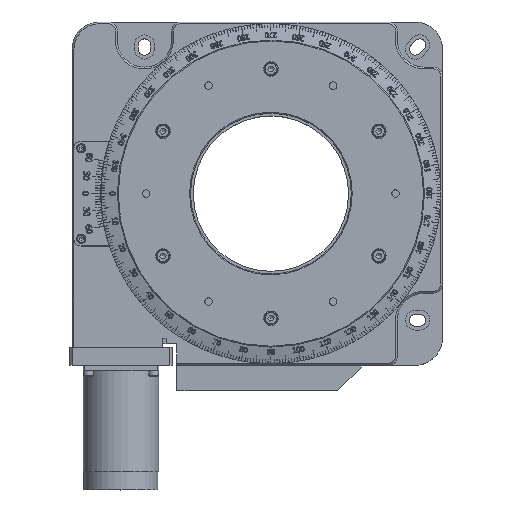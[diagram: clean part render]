
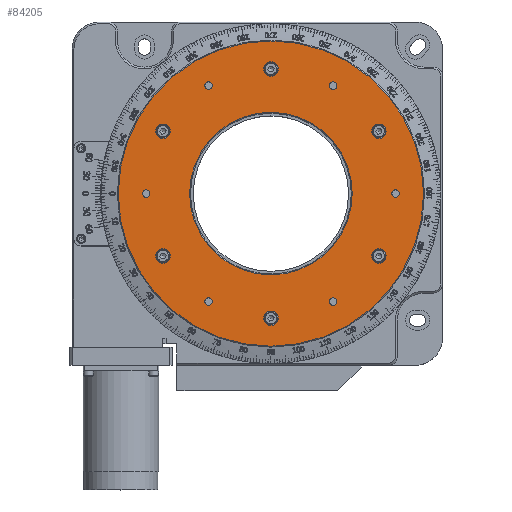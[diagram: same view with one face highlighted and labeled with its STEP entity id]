
A CAD part, top view. The second image highlights one B-rep face of the part: STEP entity #84205.
In plain terms, the highlighted planar face has unit normal (0, 0, 1).
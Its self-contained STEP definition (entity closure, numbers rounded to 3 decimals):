
#18982=FACE_BOUND($,#33728,.T.);
#18983=FACE_BOUND($,#33729,.T.);
#18984=FACE_BOUND($,#33730,.T.);
#18985=FACE_BOUND($,#33731,.T.);
#18986=FACE_BOUND($,#33732,.T.);
#18987=FACE_BOUND($,#33733,.T.);
#18988=FACE_BOUND($,#33734,.T.);
#18989=FACE_BOUND($,#33735,.T.);
#18990=FACE_BOUND($,#33736,.T.);
#18991=FACE_BOUND($,#33737,.T.);
#18992=FACE_BOUND($,#33738,.T.);
#18993=FACE_BOUND($,#33739,.T.);
#18994=FACE_BOUND($,#33740,.T.);
#18995=FACE_BOUND($,#33741,.T.);
#33728=EDGE_LOOP($,(#76620));
#33729=EDGE_LOOP($,(#76621));
#33730=EDGE_LOOP($,(#76622));
#33731=EDGE_LOOP($,(#76623));
#33732=EDGE_LOOP($,(#76624));
#33733=EDGE_LOOP($,(#76625));
#33734=EDGE_LOOP($,(#76626));
#33735=EDGE_LOOP($,(#76627));
#33736=EDGE_LOOP($,(#76628));
#33737=EDGE_LOOP($,(#76629));
#33738=EDGE_LOOP($,(#76630));
#33739=EDGE_LOOP($,(#76631));
#33740=EDGE_LOOP($,(#76632));
#33741=EDGE_LOOP($,(#76633));
#34741=CIRCLE($,#88548,2.067);
#34744=CIRCLE($,#88553,4.);
#34745=CIRCLE($,#88555,2.067);
#34747=CIRCLE($,#88559,4.);
#34748=CIRCLE($,#88561,2.067);
#34751=CIRCLE($,#88566,4.);
#34752=CIRCLE($,#88568,2.067);
#34754=CIRCLE($,#88572,4.);
#34755=CIRCLE($,#88574,2.067);
#34757=CIRCLE($,#88578,4.);
#34760=CIRCLE($,#88583,4.);
#34761=CIRCLE($,#88585,2.067);
#34762=CIRCLE($,#88587,45.);
#34764=CIRCLE($,#88590,84.5);
#42438=VERTEX_POINT($,#466618);
#42441=VERTEX_POINT($,#466626);
#42442=VERTEX_POINT($,#466629);
#42444=VERTEX_POINT($,#466635);
#42445=VERTEX_POINT($,#466638);
#42448=VERTEX_POINT($,#466646);
#42449=VERTEX_POINT($,#466649);
#42451=VERTEX_POINT($,#466655);
#42452=VERTEX_POINT($,#466658);
#42454=VERTEX_POINT($,#466664);
#42457=VERTEX_POINT($,#466672);
#42458=VERTEX_POINT($,#466675);
#42459=VERTEX_POINT($,#466678);
#42461=VERTEX_POINT($,#466683);
#53944=EDGE_CURVE($,#42438,#42438,#34741,.T.);
#53947=EDGE_CURVE($,#42441,#42441,#34744,.T.);
#53948=EDGE_CURVE($,#42442,#42442,#34745,.T.);
#53950=EDGE_CURVE($,#42444,#42444,#34747,.T.);
#53951=EDGE_CURVE($,#42445,#42445,#34748,.T.);
#53954=EDGE_CURVE($,#42448,#42448,#34751,.T.);
#53955=EDGE_CURVE($,#42449,#42449,#34752,.T.);
#53957=EDGE_CURVE($,#42451,#42451,#34754,.T.);
#53958=EDGE_CURVE($,#42452,#42452,#34755,.T.);
#53960=EDGE_CURVE($,#42454,#42454,#34757,.T.);
#53963=EDGE_CURVE($,#42457,#42457,#34760,.T.);
#53964=EDGE_CURVE($,#42458,#42458,#34761,.T.);
#53965=EDGE_CURVE($,#42459,#42459,#34762,.T.);
#53967=EDGE_CURVE($,#42461,#42461,#34764,.T.);
#76620=ORIENTED_EDGE($,*,*,#53944,.T.);
#76621=ORIENTED_EDGE($,*,*,#53947,.T.);
#76622=ORIENTED_EDGE($,*,*,#53948,.T.);
#76623=ORIENTED_EDGE($,*,*,#53950,.T.);
#76624=ORIENTED_EDGE($,*,*,#53951,.T.);
#76625=ORIENTED_EDGE($,*,*,#53954,.T.);
#76626=ORIENTED_EDGE($,*,*,#53955,.T.);
#76627=ORIENTED_EDGE($,*,*,#53957,.T.);
#76628=ORIENTED_EDGE($,*,*,#53958,.T.);
#76629=ORIENTED_EDGE($,*,*,#53960,.T.);
#76630=ORIENTED_EDGE($,*,*,#53963,.T.);
#76631=ORIENTED_EDGE($,*,*,#53964,.T.);
#76632=ORIENTED_EDGE($,*,*,#53967,.F.);
#76633=ORIENTED_EDGE($,*,*,#53965,.T.);
#79526=PLANE($,#88589);
#84205=ADVANCED_FACE($,(#18982,#18983,#18984,#18985,#18986,#18987,#18988,
#18989,#18990,#18991,#18992,#18993,#18994,#18995),#79526,.T.);
#88548=AXIS2_PLACEMENT_3D($,#466619,#102417,#102418);
#88553=AXIS2_PLACEMENT_3D($,#466627,#102427,#102428);
#88555=AXIS2_PLACEMENT_3D($,#466630,#102431,#102432);
#88559=AXIS2_PLACEMENT_3D($,#466636,#102439,#102440);
#88561=AXIS2_PLACEMENT_3D($,#466639,#102443,#102444);
#88566=AXIS2_PLACEMENT_3D($,#466647,#102453,#102454);
#88568=AXIS2_PLACEMENT_3D($,#466650,#102457,#102458);
#88572=AXIS2_PLACEMENT_3D($,#466656,#102465,#102466);
#88574=AXIS2_PLACEMENT_3D($,#466659,#102469,#102470);
#88578=AXIS2_PLACEMENT_3D($,#466665,#102477,#102478);
#88583=AXIS2_PLACEMENT_3D($,#466673,#102487,#102488);
#88585=AXIS2_PLACEMENT_3D($,#466676,#102491,#102492);
#88587=AXIS2_PLACEMENT_3D($,#466679,#102495,#102496);
#88589=AXIS2_PLACEMENT_3D($,#466682,#102499,#102500);
#88590=AXIS2_PLACEMENT_3D($,#466684,#102501,#102502);
#102417=DIRECTION('center_axis',(0.,0.,
-1.));
#102418=DIRECTION('ref_axis',(0.866,-0.5,0.));
#102427=DIRECTION('center_axis',(0.,0.,
-1.));
#102428=DIRECTION('ref_axis',(0.866,-0.5,0.));
#102431=DIRECTION('center_axis',(0.,0.,
-1.));
#102432=DIRECTION('ref_axis',(0.866,0.5,0.));
#102439=DIRECTION('center_axis',(0.,0.,
-1.));
#102440=DIRECTION('ref_axis',(0.866,0.5,0.));
#102443=DIRECTION('center_axis',(0.,0.,
-1.));
#102444=DIRECTION('ref_axis',(0.,1.,0.));
#102453=DIRECTION('center_axis',(0.,0.,
-1.));
#102454=DIRECTION('ref_axis',(0.,1.,0.));
#102457=DIRECTION('center_axis',(0.,0.,
-1.));
#102458=DIRECTION('ref_axis',(-0.866,0.5,0.));
#102465=DIRECTION('center_axis',(0.,0.,
-1.));
#102466=DIRECTION('ref_axis',(-0.866,0.5,0.));
#102469=DIRECTION('center_axis',(0.,0.,
-1.));
#102470=DIRECTION('ref_axis',(-0.866,-0.5,0.));
#102477=DIRECTION('center_axis',(0.,0.,
-1.));
#102478=DIRECTION('ref_axis',(-0.866,-0.5,0.));
#102487=DIRECTION('center_axis',(0.,0.,
-1.));
#102488=DIRECTION('ref_axis',(0.,-1.,0.));
#102491=DIRECTION('center_axis',(0.,0.,
-1.));
#102492=DIRECTION('ref_axis',(0.,-1.,0.));
#102495=DIRECTION('center_axis',(0.,0.,
-1.));
#102496=DIRECTION('ref_axis',(0.,-1.,0.));
#102499=DIRECTION('center_axis',(0.,0.,
1.));
#102500=DIRECTION('ref_axis',(-1.,0.,0.));
#102501=DIRECTION('center_axis',(0.,0.,
-1.));
#102502=DIRECTION('ref_axis',(0.,-1.,0.));
#466618=CARTESIAN_POINT('',(25.208,76.57,26.5));
#466619=CARTESIAN_POINT('Origin',(23.418,77.604,26.5));
#466626=CARTESIAN_POINT('',(-7.618,84.848,26.5));
#466627=CARTESIAN_POINT('Origin',(-11.082,86.848,26.5));
#466629=CARTESIAN_POINT('',(-43.792,78.637,26.5));
#466630=CARTESIAN_POINT('Origin',(-45.582,77.604,26.5));
#466635=CARTESIAN_POINT('',(-67.374,54.348,26.5));
#466636=CARTESIAN_POINT('Origin',(-70.838,52.348,26.5));
#466638=CARTESIAN_POINT('',(-80.082,19.915,26.5));
#466639=CARTESIAN_POINT('Origin',(-80.082,17.848,26.5));
#466646=CARTESIAN_POINT('',(-70.838,-12.652,26.5));
#466647=CARTESIAN_POINT('Origin',(-70.838,-16.652,26.5));
#466649=CARTESIAN_POINT('',(-47.372,-40.874,26.5));
#466650=CARTESIAN_POINT('Origin',(-45.582,-41.908,26.5));
#466655=CARTESIAN_POINT('',(-14.546,-49.152,26.5));
#466656=CARTESIAN_POINT('Origin',(-11.082,-51.152,26.5));
#466658=CARTESIAN_POINT('',(21.628,-42.941,26.5));
#466659=CARTESIAN_POINT('Origin',(23.418,-41.908,26.5));
#466664=CARTESIAN_POINT('',(45.209,-18.652,26.5));
#466665=CARTESIAN_POINT('Origin',(48.673,-16.652,26.5));
#466672=CARTESIAN_POINT('',(48.673,48.348,26.5));
#466673=CARTESIAN_POINT('Origin',(48.673,52.348,26.5));
#466675=CARTESIAN_POINT('',(57.918,15.781,26.5));
#466676=CARTESIAN_POINT('Origin',(57.918,17.848,26.5));
#466678=CARTESIAN_POINT('',(-11.082,-27.152,26.5));
#466679=CARTESIAN_POINT('Origin',(-11.082,17.848,26.5));
#466682=CARTESIAN_POINT('Origin',(-11.082,-46.902,26.5));
#466683=CARTESIAN_POINT('',(-11.082,-66.652,26.5));
#466684=CARTESIAN_POINT('Origin',(-11.082,17.848,26.5));
